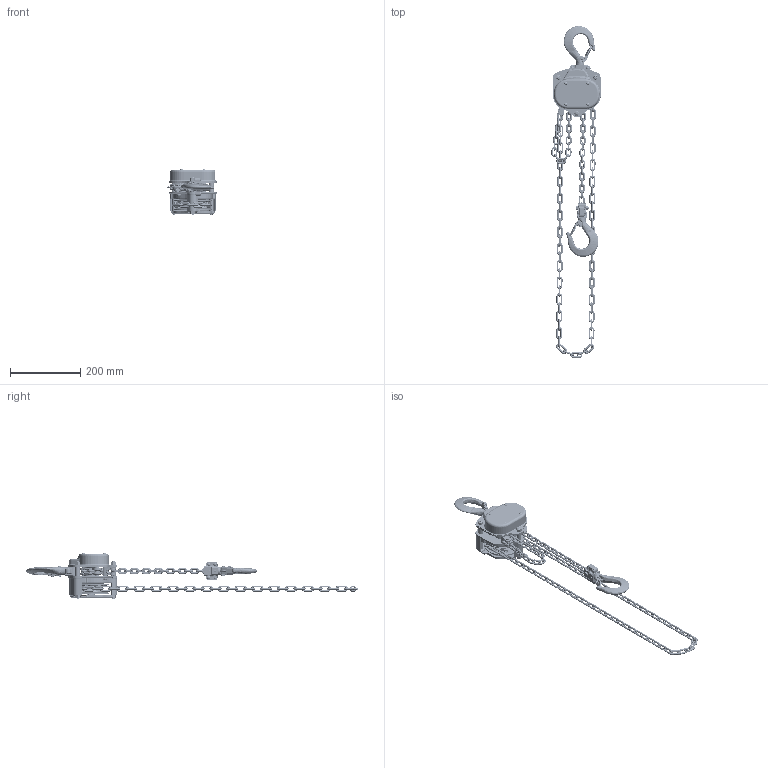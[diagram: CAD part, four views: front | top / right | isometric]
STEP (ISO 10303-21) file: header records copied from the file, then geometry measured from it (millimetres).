
FILE_DESCRIPTION (( 'STEP AP214' ), '1' );
FILE_NAME ('蚾饜.STEP', '2023-02-15T07:06:57', ( '' ), ( '' ), 'SwSTEP 2.0', 'SolidWorks 2018', '' );
FILE_SCHEMA (( 'AUTOMOTIVE_DESIGN' ));
Length unit declared in the file: millimetre
Products named in the file (45): 忒蟈謫; 衵Х啣; 憔謫欶; 秶雄ん釱; 侐穩隊粟羞像殤; 穩隊 - 萵掛; 喘欶; 藻笠えB; 忒蟈沭; 詩杶; 忒蟈欶; 8轴向挡圈; 憔蛈; 傻粣; 翉婖帣遠殤; 羲諳种2.3  24; M12羞倰蹟譫; 奻像殤; 1T铸造卡索板（20170601）; 憔謫; 酗粣; 絳謫; 6  20圉埴芛穩隊; 俋Х啣; M4攝韓滅侂蹟譫; 奻像粣; 蚾饜; 裂像; 憔蛈粟銅; え喘謫; 帣遠种; 憔蛈种; M6蹟譫; 双圈弹簧; 結蟈啣; 裂种; 粣杶; 豪瑩謂喘謫; 囀鞠褒蹟隊M4  22; 酘Х啣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
Assembly tree (70 placements, depth 2):
  蚾饜
    酘Х啣
    れ笭蟈謫
    粣杶  x2
    盓裝  x3
    衵Х啣
    絳謫  x2
    結蟈啣
    奻像粣
    豪瑩謂喘謫
    傻粣  x2
    え喘謫  x2
    俋Х啣
    酗粣
    詩杶  x4
    喘欶
    憔謫
    秶雄ん釱
    藻笠えA
    藻笠えB
    憔蛈种
    憔蛈
    憔蛈粟銅
    憔謫欶
    忒蟈欶
    忒蟈謫
    奻像殤  x2
    双圈弹簧  x2
    裂种
    M8攝韓滅侂蹟譫  x6
    れ笭蟈沭
    M6蹟譫  x2
    囀鞠褒蹟隊M4  22  x2
    M4攝韓滅侂蹟譫  x2
    6  20圉埴芛穩隊  x2
    8轴向挡圈
    M12羞倰蹟譫
    羲諳种2.3  24
    裂像  x2
    1T铸造卡索板（20170601）  x2
    穩隊 - 萵掛  x4
    帣遠种
    翉婖帣遠殤
    侐穩隊粟羞像殤  x2
    忒蟈沭
Bounding box: 140.63 x 945.68 x 130.5 mm (x, y, z)
Volume: 887185.9 mm3; surface area: 566644.5 mm2
Topology: 185 solids, 185 shells, 5996 faces, 14776 edges, 9077 vertices
Faces by surface type: cylinder 2441, plane 1231, torus 1078, bspline 961, cone 236, sphere 49
Entity records: 228606 total; most frequent: CARTESIAN_POINT 118490, ORIENTED_EDGE 22892, DIRECTION 22317, EDGE_CURVE 11446, AXIS2_PLACEMENT_3D 9225, VERTEX_POINT 6993, CIRCLE 5155, EDGE_LOOP 4997
